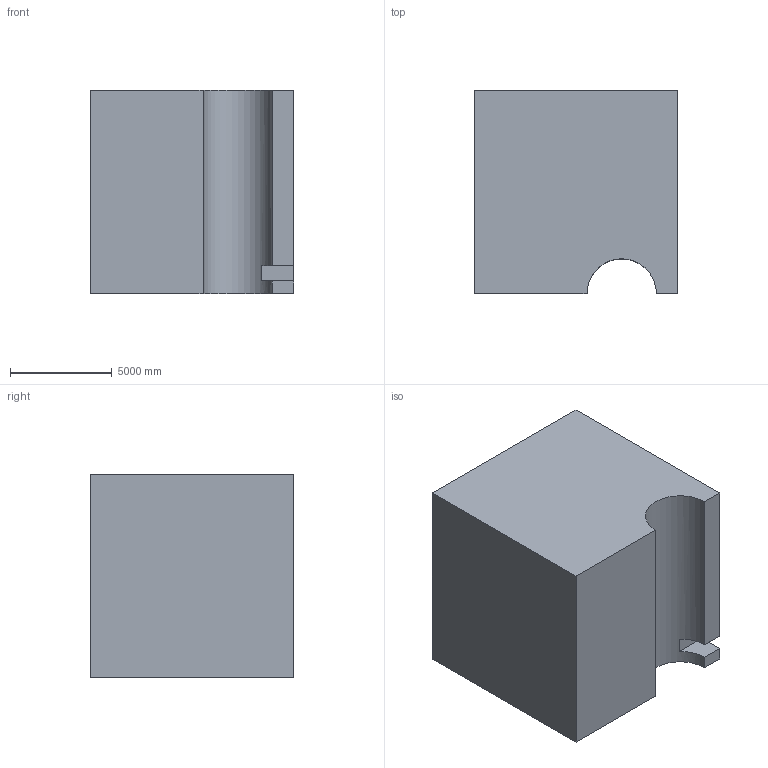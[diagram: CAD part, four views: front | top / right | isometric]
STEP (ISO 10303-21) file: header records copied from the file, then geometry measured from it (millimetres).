
FILE_DESCRIPTION (( 'STEP AP203' ), '1' );
FILE_NAME ('125.STEP', '2022-09-06T15:08:48', ( 'user' ), ( '' ), 'SwSTEP 2.0', 'SolidWorks 2021', '' );
FILE_SCHEMA (( 'CONFIG_CONTROL_DESIGN' ));
Length unit declared in the file: centimetre
Products named in the file (1): 125
Bounding box: 10000 x 10000 x 10000 mm (x, y, z)
Volume: 863718558186.5 mm3; surface area: 611753095.7 mm2
Topology: 1 solids, 1 shells, 15 faces, 39 edges, 26 vertices
Faces by surface type: plane 14, cylinder 1
Entity records: 534 total; most frequent: CARTESIAN_POINT 81, ORIENTED_EDGE 78, DIRECTION 75, EDGE_CURVE 39, VECTOR 35, LINE 35, VERTEX_POINT 26, AXIS2_PLACEMENT_3D 20
